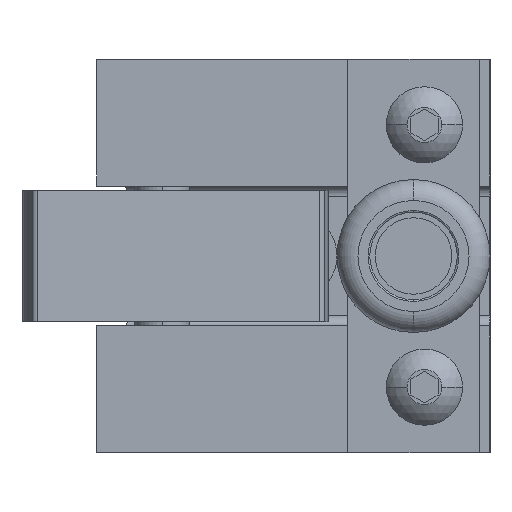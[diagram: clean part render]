
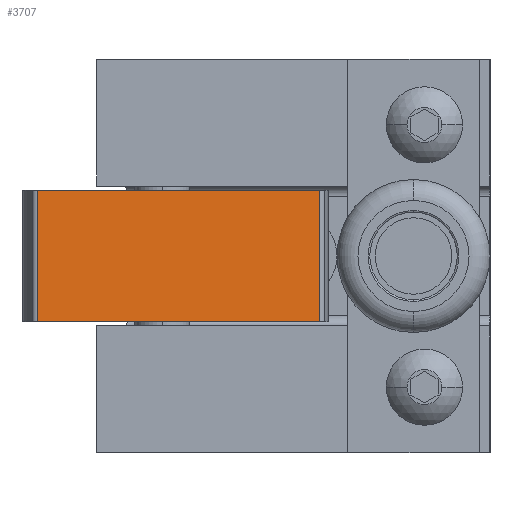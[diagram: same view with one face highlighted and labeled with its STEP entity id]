
A CAD part, left-side view. The second image highlights one B-rep face of the part: STEP entity #3707.
In plain terms, the highlighted planar face has unit normal (-0.994, -0.108, 0).
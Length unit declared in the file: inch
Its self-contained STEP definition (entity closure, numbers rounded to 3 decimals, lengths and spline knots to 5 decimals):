
#3707 = ADVANCED_FACE ( 'NONE', ( #18338 ), #18337, .T. ) ;
#3708 = EDGE_LOOP ( 'NONE', ( #3709, #3712, #3739, #3741 ) ) ;
#3709 = ORIENTED_EDGE ( 'NONE', *, *, #3710, .F. ) ;
#3710 = EDGE_CURVE ( 'NONE', #3711, #3751, #18334, .T. ) ;
#3711 = VERTEX_POINT ( 'NONE', #18314 ) ;
#3712 = ORIENTED_EDGE ( 'NONE', *, *, #3713, .F. ) ;
#3713 = EDGE_CURVE ( 'NONE', #3714, #3711, #6031, .T. ) ;
#3714 = VERTEX_POINT ( 'NONE', #18938 ) ;
#3719 = EDGE_CURVE ( 'NONE', #3720, #3751, #18922, .T. ) ;
#3720 = VERTEX_POINT ( 'NONE', #18918 ) ;
#3739 = ORIENTED_EDGE ( 'NONE', *, *, #3740, .T. ) ;
#3740 = EDGE_CURVE ( 'NONE', #3714, #3720, #18964, .T. ) ;
#3741 = ORIENTED_EDGE ( 'NONE', *, *, #3719, .T. ) ;
#3751 = VERTEX_POINT ( 'NONE', #19046 ) ;
#5537 = DIRECTION ( 'NONE',  ( 0., 0., 1. ) ) ;
#6023 = VECTOR ( 'NONE', #5537, 39.37008 ) ;
#6024 = CARTESIAN_POINT ( 'NONE',  ( 7.25943, 7.21685, -0.75 ) ) ;
#6031 = LINE ( 'NONE', #6024, #6023 ) ;
#18314 = CARTESIAN_POINT ( 'NONE',  ( 7.25943, 7.21685, 0. ) ) ;
#18320 = DIRECTION ( 'NONE',  ( 0.108, -0.994, 0. ) ) ;
#18321 = VECTOR ( 'NONE', #18320, 39.37008 ) ;
#18323 = CARTESIAN_POINT ( 'NONE',  ( 7.43493, 5.60073, 0. ) ) ;
#18328 = DIRECTION ( 'NONE',  ( 0.108, -0.994, 0. ) ) ;
#18331 = DIRECTION ( 'NONE',  ( -0.994, -0.108, 0. ) ) ;
#18333 = CARTESIAN_POINT ( 'NONE',  ( 7.43493, 5.60073, -0.75 ) ) ;
#18334 = LINE ( 'NONE', #18323, #18321 ) ;
#18336 = AXIS2_PLACEMENT_3D ( 'NONE', #18333, #18331, #18328 ) ;
#18337 = PLANE ( 'NONE',  #18336 ) ;
#18338 = FACE_OUTER_BOUND ( 'NONE', #3708, .T. ) ;
#18918 = CARTESIAN_POINT ( 'NONE',  ( 7.43493, 5.60073, -0.75 ) ) ;
#18919 = DIRECTION ( 'NONE',  ( 0., 0., 1. ) ) ;
#18920 = VECTOR ( 'NONE', #18919, 39.37008 ) ;
#18921 = CARTESIAN_POINT ( 'NONE',  ( 7.43493, 5.60073, -0.75 ) ) ;
#18922 = LINE ( 'NONE', #18921, #18920 ) ;
#18938 = CARTESIAN_POINT ( 'NONE',  ( 7.25943, 7.21685, -0.75 ) ) ;
#18959 = DIRECTION ( 'NONE',  ( 0.108, -0.994, 0. ) ) ;
#18961 = VECTOR ( 'NONE', #18959, 39.37008 ) ;
#18963 = CARTESIAN_POINT ( 'NONE',  ( 7.43493, 5.60073, -0.75 ) ) ;
#18964 = LINE ( 'NONE', #18963, #18961 ) ;
#19046 = CARTESIAN_POINT ( 'NONE',  ( 7.43493, 5.60073, 0. ) ) ;
